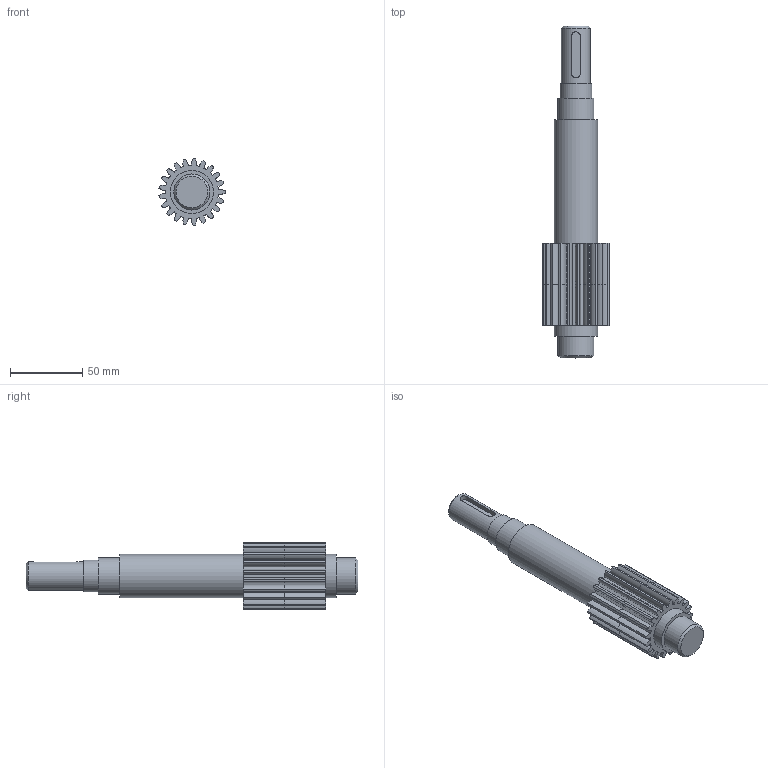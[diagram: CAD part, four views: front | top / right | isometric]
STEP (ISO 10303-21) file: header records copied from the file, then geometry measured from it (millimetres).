
FILE_DESCRIPTION(('Open CASCADE Model'),'2;1');
FILE_NAME('Open CASCADE Shape Model','2026-09-15T22:57:41',('Author'),( 'Open CASCADE'),'Open CASCADE STEP processor 7.9','build123d', 'Unknown');
FILE_SCHEMA(('AUTOMOTIVE_DESIGN { 1 0 10303 214 1 1 1 1 }'));
Length unit declared in the file: millimetre
Products named in the file (1): COMPOUND
Bounding box: 45.84 x 230 x 45.95 mm (x, y, z)
Volume: 173235.3 mm3; surface area: 32871.7 mm2
Topology: 1 solids, 1 shells, 147 faces, 412 edges, 274 vertices
Faces by surface type: extrusion 84, cylinder 50, plane 11, cone 2
Full cylindrical faces by diameter (mm): 20 x1, 22 x1, 25 x2, 30 x2
Entity records: 14540 total; most frequent: CARTESIAN_POINT 6556, DIRECTION 1322, VECTOR 898, ORIENTED_EDGE 824, PCURVE 824, DEFINITIONAL_REPRESENTATION 824, LINE 814, EDGE_CURVE 412
